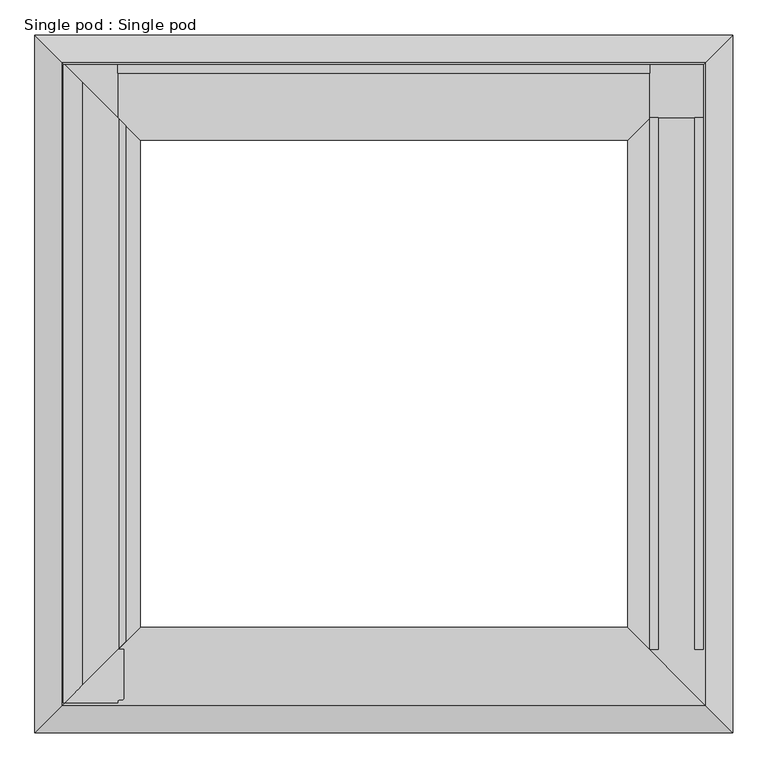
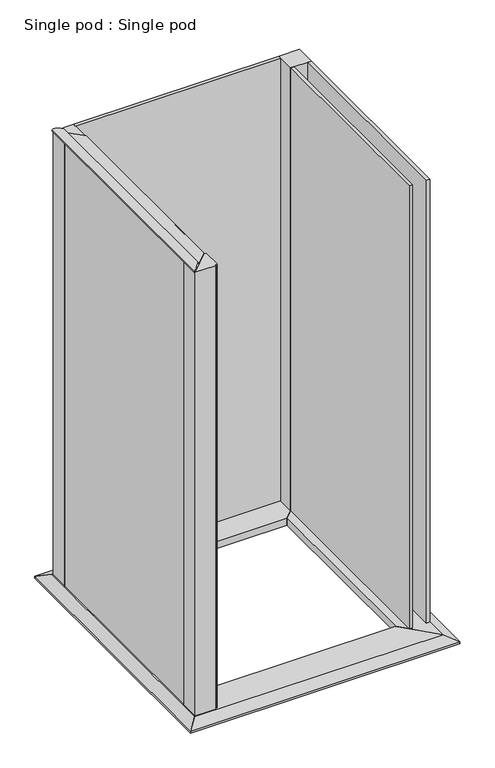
"""IFC4 building model written with IfcOpenShell, lengths in millimetres: furniture geometry, Single pod : Single pod."""

from ifc_helpers import new_model, si_unit, point, frame, frame_2d, origin, place, context, project, spatial, polyline, circle_curve, ellipse_curve, trimmed, segment, composite_curve, outline, extrude, faceted_brep, source, transform, mapped, element, save
from ifc_brep_helpers import plane_surface, cylinder_surface, advanced_brep


def single_pod_single_pod_43662315(model_context):
    return source(origin(), model_context, "Body", "SolidModel", [
        advanced_brep(
        [(-569.5, -569.5, 2208.1), (-569.5, -569.5, 2198.1), (-474.5, -474.5, 2198.1), (-474.5, -474.5, 2118.1), (-460.3233646, -460.3233646, 2121.3729342), (-460.3233646, -460.3233646, 2123.3754182), (-472.6956885, -472.6956885, 2120.5190421), (-472.6956885, -472.6956885, 2199.7084714), (-537.6956885, -537.6956885, 2199.7084714), (-537.6956885, -537.6956885, 2217.8303043), (-572.0, -569.5, 2206.1749639), (-572.0, -569.5, 2198.1), (-572.0, 569.5, 2198.1), (-572.0, 569.5, 2206.1749639), (-569.5, 569.5, 2208.1), (-569.5, 569.5, 2198.1), (-474.5, 474.5, 2118.1), (-460.3233646, 460.3233646, 2121.3729342), (-460.3233646, 460.3233646, 2123.3754182), (-472.6956885, 472.6956885, 2120.5190421), (-472.6956885, 472.6956885, 2199.7084714), (-537.6956885, 537.6956885, 2199.7084714), (-537.6956885, 537.6956885, 2217.8303043), (-474.5, 474.5, 2198.1)],
        [
            (0, 1),
            (1, 2),
            (2, 3),
            (3, 4),
            (4, 5),
            (5, 6),
            (6, 7),
            (7, 8),
            (8, 9),
            (9, 0, ellipse_curve(frame((-539.3317973, -539.3317973, 2166.3353873), z_axis=(0.7071067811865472, -0.7071067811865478, 0.0), x_axis=(-0.7071067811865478, -0.7071067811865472, 0.0)), 72.8615582, 51.5209019)),
            (10, 11),
            (11, 1),
            (0, 10, circle_curve(frame((-539.3317973, -569.5, 2166.3353873), z_axis=(0.0, -1.0, 0.0), x_axis=(-1.0, 0.0, 0.0)), 51.5209019)),
            (12, 13),
            (13, 14, circle_curve(frame((-539.3317973, 569.5, 2166.3353873), z_axis=(0.0, 1.0, 0.0), x_axis=(-1.0, 0.0, 0.0)), 51.5209019)),
            (14, 15),
            (15, 12),
            (3, 16),
            (16, 17),
            (17, 4),
            (17, 18),
            (18, 5),
            (18, 19),
            (19, 6),
            (19, 20),
            (20, 7),
            (20, 21),
            (21, 8),
            (21, 22),
            (22, 9),
            (13, 10),
            (22, 14, ellipse_curve(frame((-539.3317973, 539.3317973, 2166.3353873), z_axis=(-0.7071067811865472, -0.7071067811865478, 0.0), x_axis=(0.7071067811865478, -0.7071067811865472, 0.0)), 72.8615582, 51.5209019)),
            (12, 11),
            (15, 23),
            (23, 2),
            (23, 16),
        ],
        [
            plane_surface(frame((-434.6918651, -434.6918651, 2508.4304259), z_axis=(0.7071067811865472, -0.7071067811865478, 0.0), x_axis=(0.0, 0.0, -1.0))),
            plane_surface(frame((-474.5, -569.5, 2118.1), z_axis=(0.0, -1.0, 0.0), x_axis=(0.9743700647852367, 0.0, 0.22495105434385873))),
            plane_surface(frame((-474.5, 569.5, 2118.1), z_axis=(0.0, 1.0, 0.0), x_axis=(-0.9743700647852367, 0.0, -0.22495105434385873))),
            plane_surface(frame((-474.5, -569.5, 2118.1), z_axis=(0.22495105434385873, 0.0, -0.9743700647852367), x_axis=(0.0, 1.0, 0.0))),
            plane_surface(frame((-460.3233646, -569.5, 2121.3729342), z_axis=(1.0, 0.0, 0.0), x_axis=(0.0, 1.0, 0.0))),
            plane_surface(frame((-460.3233646, -569.5, 2123.3754182), z_axis=(-0.2249510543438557, 0.0, 0.9743700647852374), x_axis=(0.0, 1.0, 0.0))),
            plane_surface(frame((-472.6956885, -569.5, 2120.5190421), z_axis=(1.0, 0.0, 0.0), x_axis=(0.0, 1.0, 0.0))),
            plane_surface(frame((-472.6956885, -569.5, 2199.7084714), z_axis=(0.0, 0.0, 1.0), x_axis=(0.0, 1.0, 0.0))),
            plane_surface(frame((-537.6956885, -569.5, 2199.7084714), z_axis=(1.0, 0.0, 0.0), x_axis=(0.0, 1.0, 0.0))),
            cylinder_surface(frame((-539.3317973, 569.5, 2166.3353873), z_axis=(0.0, -1.0, 0.0), x_axis=(-1.0, 0.0, 0.0)), 51.5209019),
            plane_surface(frame((-572.0, -569.5, 2206.1749639), z_axis=(-1.0, 0.0, 0.0), x_axis=(0.0, 1.0, 0.0))),
            plane_surface(frame((-572.0, -569.5, 2198.1), z_axis=(0.0, 0.0, -1.0), x_axis=(0.0, 1.0, 0.0))),
            plane_surface(frame((-474.5, -569.5, 2198.1), z_axis=(-1.0, 0.0, 0.0), x_axis=(0.0, 1.0, 0.0))),
            plane_surface(frame((-622.5, 622.5, 2326.5967803), z_axis=(0.7071067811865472, 0.7071067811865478, 0.0), x_axis=(0.0, 0.0, -1.0))),
        ],
        [
            (0, [[1, 2, 3, 4, 5, 6, 7, 8, 9, 10]]),
            (1, [[11, 12, -1, 13]]),
            (2, [[14, 15, 16, 17]]),
            (3, [[-4, 18, 19, 20]]),
            (4, [[-5, -20, 21, 22]]),
            (5, [[-6, -22, 23, 24]]),
            (6, [[-7, -24, 25, 26]]),
            (7, [[-8, -26, 27, 28]]),
            (8, [[-9, -28, 29, 30]]),
            (9, [[31, -13, -10, -30, 32, -15]]),
            (10, [[-11, -31, -14, 33]]),
            (11, [[-33, -17, 34, 35, -2, -12]]),
            (12, [[-3, -35, 36, -18]]),
            (13, [[-16, -32, -29, -27, -25, -23, -21, -19, -36, -34]]),
        ],
    ),
        extrude(outline(polyline([(474.5, -474.5), (474.5, 474.5), (489.5, 474.5), (489.5, -474.5), (474.5, -474.5)])), frame((0.0, 0.0, 35.555297), z_axis=(0.0, 0.0, 1.0), x_axis=(1.0, 0.0, 0.0)), (0.0, 0.0, 1.0), 2162.544703),
        extrude(outline(polyline([(-474.5, 474.5), (-474.5, -474.5), (-489.5, -474.5), (-489.5, 474.5), (-474.5, 474.5)])), frame((0.0, 0.0, 35.555297), z_axis=(0.0, 0.0, 1.0), x_axis=(1.0, 0.0, 0.0)), (0.0, 0.0, 1.0), 2162.544703),
        extrude(outline(polyline([(-474.5, 569.5), (474.5, 569.5), (474.5, 554.5), (-474.5, 554.5), (-474.5, 569.5)])), frame((0.0, 0.0, 35.555297), z_axis=(0.0, 0.0, 1.0), x_axis=(1.0, 0.0, 0.0)), (0.0, 0.0, 1.0), 2162.544703),
        extrude(outline(polyline([(-569.5, -474.5), (-569.5, 474.5), (-554.5, 474.5), (-554.5, -474.5), (-569.5, -474.5)])), frame((0.0, 0.0, 35.555297), z_axis=(0.0, 0.0, 1.0), x_axis=(1.0, 0.0, 0.0)), (0.0, 0.0, 1.0), 2162.544703),
        extrude(outline(polyline([(569.5, 474.5), (569.5, -474.5), (554.5, -474.5), (554.5, 474.5), (569.5, 474.5)])), frame((0.0, 0.0, 35.555297), z_axis=(0.0, 0.0, 1.0), x_axis=(1.0, 0.0, 0.0)), (0.0, 0.0, 1.0), 2162.544703),
        extrude(outline(polyline([(569.5, 474.5), (474.5, 474.5), (474.5, 569.5), (569.5, 569.5), (569.5, 474.5)])), frame((0.0, 0.0, 33.0665228), z_axis=(0.0, 0.0, 1.0), x_axis=(1.0, 0.0, 0.0)), (0.0, 0.0, 1.0), 2165.0334772),
        extrude(outline(polyline([(-569.5, 474.5), (-569.5, 569.5), (-474.5, 569.5), (-474.5, 474.5), (-569.5, 474.5)])), frame((0.0, 0.0, 33.0665228), z_axis=(0.0, 0.0, 1.0), x_axis=(1.0, 0.0, 0.0)), (0.0, 0.0, 1.0), 2165.0334772),
        extrude(outline(composite_curve([segment(polyline([(-569.5, -474.5), (-464.3524489, -474.5), (-464.3524489, -561.8403358)]), True, "CONTINUOUS"), segment(trimmed(circle_curve(frame_2d((-467.0121131, -561.8403358)), 2.6596642), [point((-464.3524489, -561.8403358))], [point((-467.0121131, -564.5))], False, "CARTESIAN"), True, "CONTINUOUS"), segment(polyline([(-467.0121131, -564.5), (-472.0, -564.5)]), True, "CONTINUOUS"), segment(trimmed(circle_curve(frame_2d((-472.0, -567.0)), 2.5), [point((-472.0, -564.5))], [point((-474.5, -567.0))], True, "CARTESIAN"), True, "CONTINUOUS"), segment(polyline([(-474.5, -567.0), (-474.5, -569.5), (-569.5, -569.5), (-569.5, -474.5)]), True, "CONTINUOUS")], self_intersect=False)), frame((0.0, 0.0, 33.0665228), z_axis=(0.0, 0.0, 1.0), x_axis=(1.0, 0.0, 0.0)), (0.0, 0.0, 1.0), 2165.0334772),
        faceted_brep([(622.5, 622.5, 10.0), (-622.5, 622.5, 10.0), (-574.5487243, 574.5487243, 33.0665228), (574.5487243, 574.5487243, 33.0665228), (-434.6918651, 434.6918651, 36.5455491), (434.6918651, 434.6918651, 36.5455491), (-434.6918651, 434.6918651, 4.4168656), (434.6918651, 434.6918651, 4.4168656), (-479.6918651, 479.6918651, 4.4168656), (479.6918651, 479.6918651, 4.4168656), (-479.6918651, 479.6918651, 6.4168656), (479.6918651, 479.6918651, 6.4168656), (-574.5, 574.5, 1.4481818), (574.5, 574.5, 1.4481818), (-574.5, 574.5, 0.0), (574.5, 574.5, 0.0), (-622.5, 622.5, 0.0), (622.5, 622.5, 0.0)], [[[0, 1, 2, 3]], [[2, 4, 5, 3]], [[4, 6, 7, 5]], [[6, 8, 9, 7]], [[8, 10, 11, 9]], [[10, 12, 13, 11]], [[12, 14, 15, 13]], [[16, 17, 15, 14]], [[1, 0, 17, 16]], [[2, 1, 16, 14, 12, 10, 8, 6, 4]], [[0, 3, 5, 7, 9, 11, 13, 15, 17]]]),
        faceted_brep([(622.5, -622.5, 10.0), (622.5, 622.5, 10.0), (574.5487243, 574.5487243, 33.0665228), (574.5487243, -574.5487243, 33.0665228), (434.6918651, 434.6918651, 36.5455491), (434.6918651, -434.6918651, 36.5455491), (434.6918651, 434.6918651, 4.4168656), (434.6918651, -434.6918651, 4.4168656), (479.6918651, 479.6918651, 4.4168656), (479.6918651, -479.6918651, 4.4168656), (479.6918651, 479.6918651, 6.4168656), (479.6918651, -479.6918651, 6.4168656), (574.5, 574.5, 1.4481818), (574.5, -574.5, 1.4481818), (574.5, 574.5, 0.0), (574.5, -574.5, 0.0), (622.5, 622.5, 0.0), (622.5, -622.5, 0.0)], [[[0, 1, 2, 3]], [[2, 4, 5, 3]], [[4, 6, 7, 5]], [[6, 8, 9, 7]], [[8, 10, 11, 9]], [[10, 12, 13, 11]], [[12, 14, 15, 13]], [[16, 17, 15, 14]], [[1, 0, 17, 16]], [[2, 1, 16, 14, 12, 10, 8, 6, 4]], [[0, 3, 5, 7, 9, 11, 13, 15, 17]]]),
        faceted_brep([(-622.5, 622.5, 10.0), (-622.5, -622.5, 10.0), (-574.5487243, -574.5487243, 33.0665228), (-574.5487243, 574.5487243, 33.0665228), (-434.6918651, -434.6918651, 36.5455491), (-434.6918651, 434.6918651, 36.5455491), (-434.6918651, -434.6918651, 4.4168656), (-434.6918651, 434.6918651, 4.4168656), (-479.6918651, -479.6918651, 4.4168656), (-479.6918651, 479.6918651, 4.4168656), (-479.6918651, -479.6918651, 6.4168656), (-479.6918651, 479.6918651, 6.4168656), (-574.5, -574.5, 1.4481818), (-574.5, 574.5, 1.4481818), (-574.5, -574.5, 0.0), (-574.5, 574.5, 0.0), (-622.5, -622.5, 0.0), (-622.5, 622.5, 0.0)], [[[0, 1, 2, 3]], [[2, 4, 5, 3]], [[4, 6, 7, 5]], [[6, 8, 9, 7]], [[8, 10, 11, 9]], [[10, 12, 13, 11]], [[12, 14, 15, 13]], [[16, 17, 15, 14]], [[1, 0, 17, 16]], [[2, 1, 16, 14, 12, 10, 8, 6, 4]], [[0, 3, 5, 7, 9, 11, 13, 15, 17]]]),
        faceted_brep([(-622.5, -622.5, 10.0), (622.5, -622.5, 10.0), (574.5487243, -574.5487243, 33.0665228), (-574.5487243, -574.5487243, 33.0665228), (434.6918651, -434.6918651, 36.5455491), (-434.6918651, -434.6918651, 36.5455491), (434.6918651, -434.6918651, 4.4168656), (-434.6918651, -434.6918651, 4.4168656), (479.6918651, -479.6918651, 4.4168656), (-479.6918651, -479.6918651, 4.4168656), (479.6918651, -479.6918651, 6.4168656), (-479.6918651, -479.6918651, 6.4168656), (574.5, -574.5, 1.4481818), (-574.5, -574.5, 1.4481818), (574.5, -574.5, 0.0), (-574.5, -574.5, 0.0), (622.5, -622.5, 0.0), (-622.5, -622.5, 0.0)], [[[0, 1, 2, 3]], [[2, 4, 5, 3]], [[4, 6, 7, 5]], [[6, 8, 9, 7]], [[8, 10, 11, 9]], [[10, 12, 13, 11]], [[12, 14, 15, 13]], [[16, 17, 15, 14]], [[1, 0, 17, 16]], [[2, 1, 16, 14, 12, 10, 8, 6, 4]], [[0, 3, 5, 7, 9, 11, 13, 15, 17]]]),
    ])


if __name__ == "__main__":
    model = new_model("IFC4")
    model_context = context("Model", 3, world=origin())
    ifc_project = project(units=[si_unit("LENGTHUNIT", "METRE", prefix="MILLI")], contexts=[model_context])
    site = spatial("IfcSite", under=ifc_project)
    building = spatial("IfcBuilding", under=site)
    placement = place(None, origin())
    single_pod_single_pod_shape = single_pod_single_pod_43662315(model_context)
    element("IfcFurniture", 1, ObjectType="Single pod : Single pod", at=placement, inside=building, context=model_context, shape_type="MappedRepresentation", body=[
        mapped(single_pod_single_pod_shape, transform((0.0, 0.0, 0.0), x_axis=(1.0, 0.0, 0.0), y_axis=(0.0, 1.0, 0.0), z_axis=(0.0, 0.0, 1.0))),
    ])
    save(model, "model.ifc")
